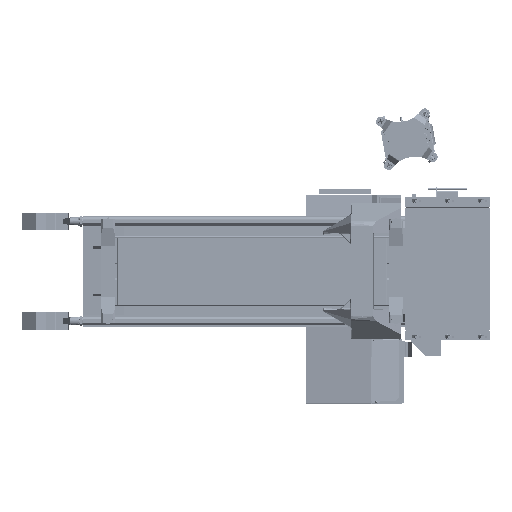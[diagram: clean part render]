
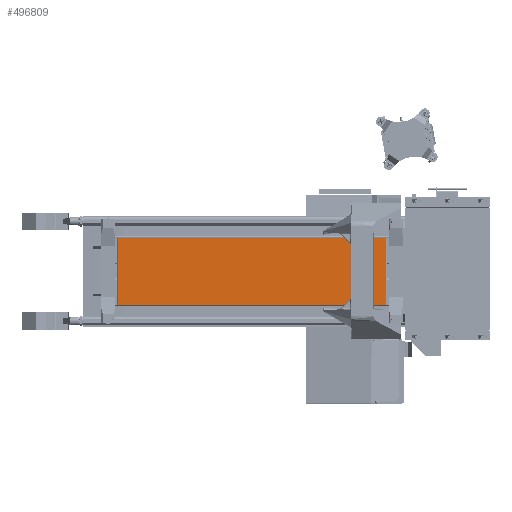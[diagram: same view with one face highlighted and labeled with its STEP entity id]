
A CAD part, front view. The second image highlights one B-rep face of the part: STEP entity #496809.
In plain terms, the highlighted planar face has unit normal (0, -1, 0).
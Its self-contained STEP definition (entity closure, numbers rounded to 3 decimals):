
#8677 = EDGE_LOOP ( 'NONE', ( #251059, #342654, #644143, #635277 ) ) ;
#63692 = CARTESIAN_POINT ( 'NONE',  ( 121.45, 14.75, 18.375 ) ) ;
#79585 = CARTESIAN_POINT ( 'NONE',  ( 121.45, 14.75, 17.625 ) ) ;
#86350 = FACE_OUTER_BOUND ( 'NONE', #8677, .T. ) ;
#116063 = VERTEX_POINT ( 'NONE', #206470 ) ;
#118591 = LINE ( 'NONE', #63692, #160939 ) ;
#121735 = VERTEX_POINT ( 'NONE', #252803 ) ;
#123919 = CARTESIAN_POINT ( 'NONE',  ( -6.55, 14.75, -18.375 ) ) ;
#158437 = EDGE_CURVE ( 'NONE', #121735, #116063, #305350, .T. ) ;
#160939 = VECTOR ( 'NONE', #279688, 39.37 ) ;
#175747 = DIRECTION ( 'NONE',  ( 0., -1., 0. ) ) ;
#193270 = VECTOR ( 'NONE', #350041, 39.37 ) ;
#206470 = CARTESIAN_POINT ( 'NONE',  ( 140.45, 14.75, -18.375 ) ) ;
#222188 = CARTESIAN_POINT ( 'NONE',  ( -6.55, 14.75, 18.375 ) ) ;
#242955 = AXIS2_PLACEMENT_3D ( 'NONE', #79585, #175747, #384861 ) ;
#251059 = ORIENTED_EDGE ( 'NONE', *, *, #442573, .T. ) ;
#252803 = CARTESIAN_POINT ( 'NONE',  ( 140.45, 14.75, 18.375 ) ) ;
#279688 = DIRECTION ( 'NONE',  ( -1., 0., 0. ) ) ;
#294892 = CARTESIAN_POINT ( 'NONE',  ( -6.55, 14.75, -19.25 ) ) ;
#301614 = LINE ( 'NONE', #294892, #407559 ) ;
#305350 = LINE ( 'NONE', #459508, #193270 ) ;
#342654 = ORIENTED_EDGE ( 'NONE', *, *, #601803, .F. ) ;
#347574 = VERTEX_POINT ( 'NONE', #222188 ) ;
#349448 = VECTOR ( 'NONE', #357428, 39.37 ) ;
#350041 = DIRECTION ( 'NONE',  ( 0., 0., -1. ) ) ;
#357428 = DIRECTION ( 'NONE',  ( -1., 0., 0. ) ) ;
#384861 = DIRECTION ( 'NONE',  ( 1., 0., 0. ) ) ;
#402166 = CARTESIAN_POINT ( 'NONE',  ( 121.45, 14.75, -18.375 ) ) ;
#407559 = VECTOR ( 'NONE', #465896, 39.37 ) ;
#408879 = LINE ( 'NONE', #402166, #349448 ) ;
#442573 = EDGE_CURVE ( 'NONE', #121735, #347574, #118591, .T. ) ;
#453109 = PLANE ( 'NONE',  #242955 ) ;
#459508 = CARTESIAN_POINT ( 'NONE',  ( 140.45, 14.75, 19.25 ) ) ;
#465896 = DIRECTION ( 'NONE',  ( 0., 0., 1. ) ) ;
#496809 = ADVANCED_FACE ( 'NONE', ( #86350 ), #453109, .T. ) ;
#508987 = VERTEX_POINT ( 'NONE', #123919 ) ;
#601803 = EDGE_CURVE ( 'NONE', #508987, #347574, #301614, .T. ) ;
#624994 = EDGE_CURVE ( 'NONE', #116063, #508987, #408879, .T. ) ;
#635277 = ORIENTED_EDGE ( 'NONE', *, *, #158437, .F. ) ;
#644143 = ORIENTED_EDGE ( 'NONE', *, *, #624994, .F. ) ;
